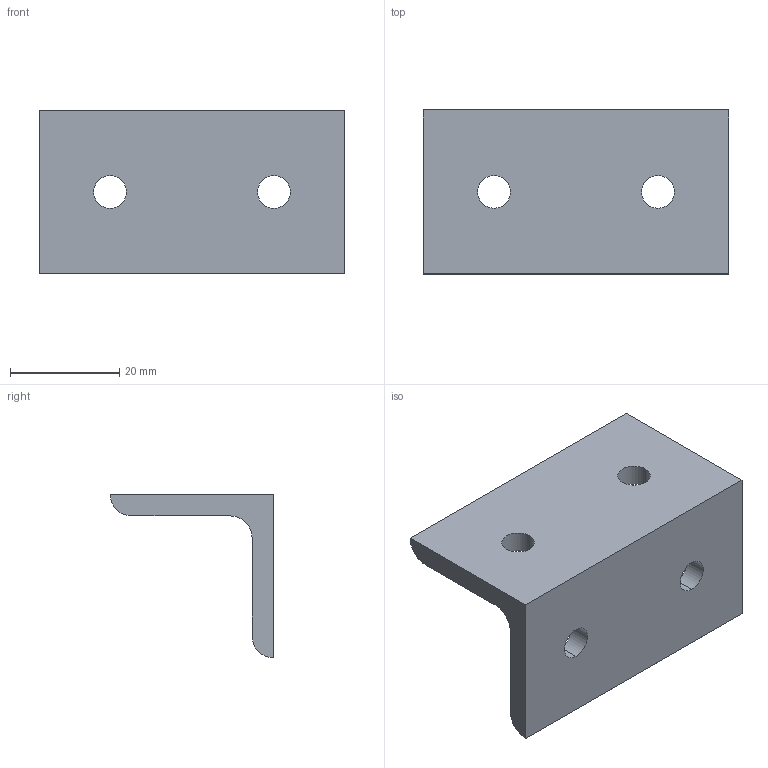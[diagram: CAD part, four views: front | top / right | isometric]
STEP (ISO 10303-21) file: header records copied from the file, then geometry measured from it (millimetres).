
FILE_DESCRIPTION (( 'STEP AP203' ), '1' );
FILE_NAME ('6012.STEP', '2016-07-07T08:17:14', ( 'RosInstal-MKM' ), ( '' ), 'SwSTEP 2.0', 'SolidWorks 2014', '' );
FILE_SCHEMA (( 'CONFIG_CONTROL_DESIGN' ));
Length unit declared in the file: millimetre
Products named in the file (1): 6012
Bounding box: 56 x 30 x 30 mm (x, y, z)
Volume: 11907.5 mm3; surface area: 6948.6 mm2
Topology: 1 solids, 1 shells, 18 faces, 48 edges, 32 vertices
Faces by surface type: cylinder 11, plane 7
Entity records: 667 total; most frequent: DIRECTION 108, CARTESIAN_POINT 99, ORIENTED_EDGE 96, EDGE_CURVE 48, AXIS2_PLACEMENT_3D 41, VERTEX_POINT 32, EDGE_LOOP 26, VECTOR 26
